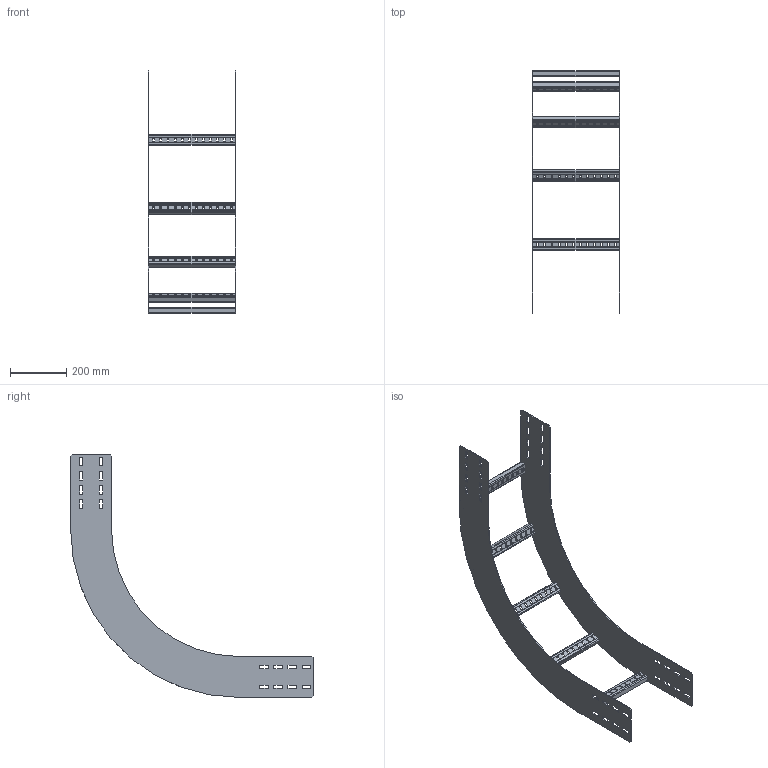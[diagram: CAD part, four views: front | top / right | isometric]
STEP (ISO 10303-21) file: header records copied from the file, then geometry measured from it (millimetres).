
FILE_DESCRIPTION(('Creo Elements/Direct Modeling STEP Export'),'2;1');
FILE_NAME('WPIR15-30-90-45.stp','2016-06-01T14:27:28',(''),(''),'PTC Creo Elements/Direct Modeling STEP processor for AP214 (Solid Model)','PTC Creo Elements/Direct Modeling 19.0C 15-Aug-2015 (C) Parametric Technology GmbH','');
FILE_SCHEMA(('AUTOMOTIVE_DESIGN { 1 0 10303 214 1 1 1 1 }'));
Length unit declared in the file: millimetre
Products named in the file (3): WPIBG150_450; WPHBS30; WPIR15-30-90-45
Assembly tree (7 placements, depth 2):
  WPIR15-30-90-45
    WPHBS30  x5
    WPIBG150_450  x2
Bounding box: 311 x 860 x 860 mm (x, y, z)
Volume: 1364345.9 mm3; surface area: 1093585.1 mm2
Topology: 7 solids, 7 shells, 596 faces, 1746 edges, 1164 vertices
Faces by surface type: plane 382, cylinder 214
Entity records: 5700 total; most frequent: CARTESIAN_POINT 983, ORIENTED_EDGE 972, DIRECTION 920, EDGE_CURVE 486, VECTOR 398, LINE 398, VERTEX_POINT 324, AXIS2_PLACEMENT_3D 261
